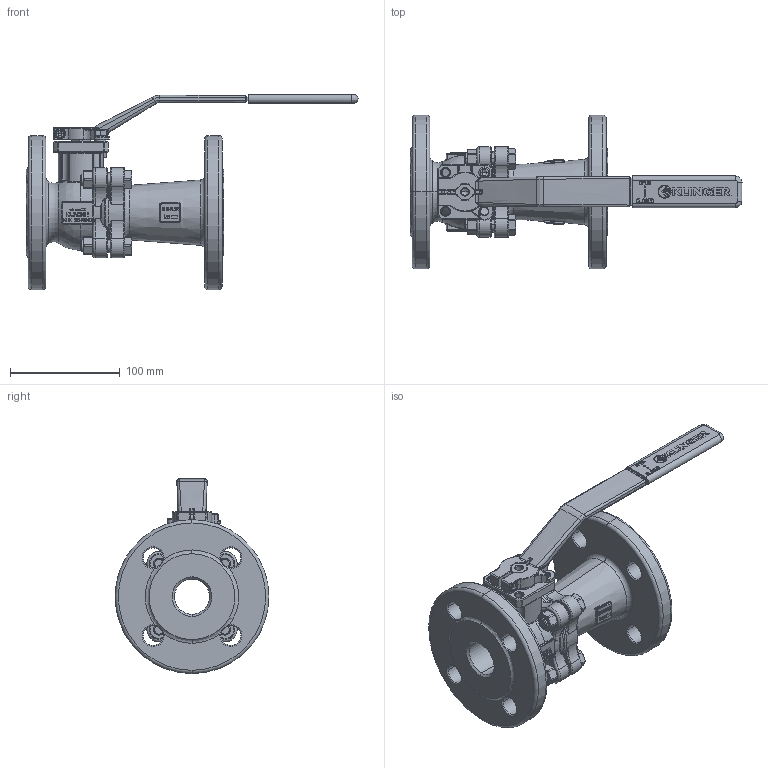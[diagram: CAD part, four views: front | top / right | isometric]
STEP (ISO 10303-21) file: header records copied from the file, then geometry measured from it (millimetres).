
FILE_DESCRIPTION((''),'2;1');
FILE_NAME('KHEFK032VFL032P040PKK','2015-08-10T',('mahrhauserh'),('RAND'),'PRO/ENGINEER BY PARAMETRIC TECHNOLOGY CORPORATION, 2013410','PRO/ENGINEER BY PARAMETRIC TECHNOLOGY CORPORATION, 2013410','');
FILE_SCHEMA(('CONFIG_CONTROL_DESIGN'));
Products named in the file (1): KHEFK032VFL032P040PKK
Bounding box: 302 x 140 x 177.55 mm (x, y, z)
Volume: 895661.9 mm3; surface area: 204793.2 mm2
Topology: 1 solids, 2 shells, 3328 faces, 8722 edges, 5522 vertices
Faces by surface type: plane 2037, cylinder 472, torus 327, bspline 252, cone 210, sphere 30
Entity records: 127837 total; most frequent: CARTESIAN_POINT 46902, ORIENTED_EDGE 17432, DIRECTION 16039, EDGE_CURVE 8716, VECTOR 5929, LINE 5929, VERTEX_POINT 5522, AXIS2_PLACEMENT_3D 5055
